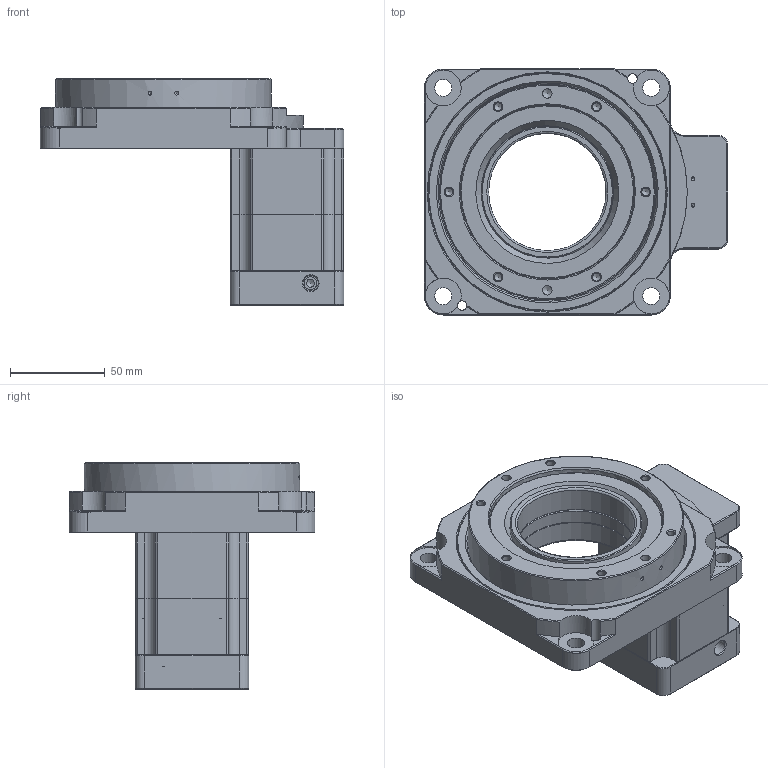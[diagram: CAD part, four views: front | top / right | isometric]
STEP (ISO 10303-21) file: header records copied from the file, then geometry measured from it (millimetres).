
FILE_DESCRIPTION((''),'2;1');
FILE_NAME('D:\유성\액추에이터\작성도면\액추에이터 3d\130\SHA130SV030~050 (2 STAGE-A TYPE).stp','2014-05-22T14:18:01',('nagyu'),(''),'Autodesk Inventor 2013','Autodesk Inventor 2013','');
FILE_SCHEMA(('AUTOMOTIVE_DESIGN { 1 0 10303 214 1 1 1 1 }'));
Length unit declared in the file: millimetre
Products named in the file (1): SHA130SV030~050 (2 STAGE-A TYPE)_Shrinkwrap_1
Bounding box: 160.34 x 130 x 119.5 mm (x, y, z)
Volume: 473310.7 mm3; surface area: 174588.5 mm2
Topology: 2 solids, 25 shells, 2363 faces, 6491 edges, 4258 vertices
Faces by surface type: bspline 1284, cone 391, cylinder 338, plane 314, torus 36
Full cylindrical faces by diameter (mm): 1 x1, 2.013 x4, 2.459 x12, 3 x5, 3.242 x9, 3.4 x12, 4 x4, 4.134 x10, 4.3 x13, 5 x5, 5.5 x5, 6 x12, 6.8 x1, 6.954 x1, 7 x3, 7.5 x8, 8 x1, 8.5 x1, 9 x4, 14 x1, 15 x2, 17 x1, 19 x3, 23.9 x1, 24.7 x1, 24.9 x1, 25 x1, 27 x1, 29 x1, 34 x1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
Entity records: 96152 total; most frequent: CARTESIAN_POINT 43784, ORIENTED_EDGE 12102, DIRECTION 7393, EDGE_CURVE 6051, VERTEX_POINT 4145, AXIS2_PLACEMENT_3D 3486, B_SPLINE_CURVE_WITH_KNOTS 3157, EDGE_LOOP 2821
